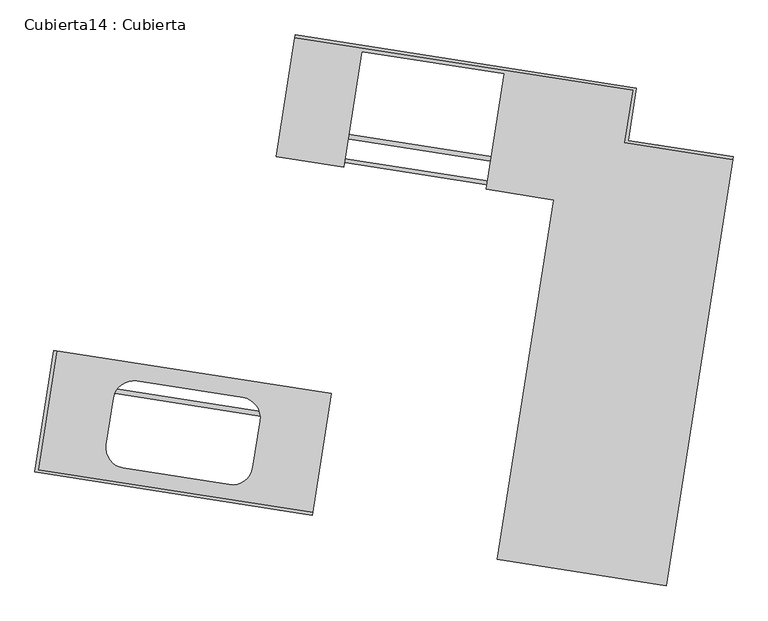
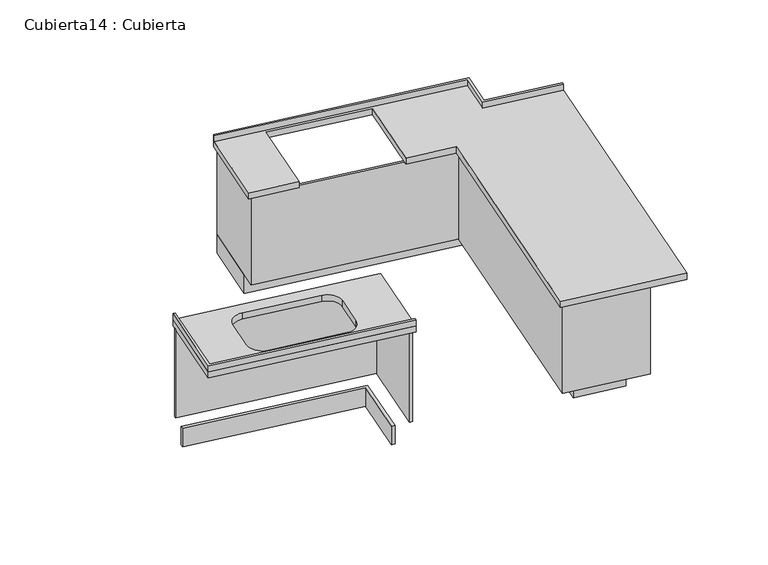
"""IFC4 building model written with IfcOpenShell, lengths in millimetres: furniture geometry, Cubierta14 : Cubierta."""

from ifc_helpers import new_model, si_unit, frame, origin, place, context, project, spatial, polyline, circle_curve, outline, extrude, faceted_brep, source, transform, mapped, element, save
from ifc_brep_helpers import plane_surface, revolved_surface, advanced_brep


def cubierta14_cubierta_d1cb6557(model_context):
    return source(origin(), model_context, "Body", "SolidModel", [
        extrude(outline(polyline([(-32367.9768771, -60096.1396805), (-32353.1558375, -60098.4498287), (-32450.9521109, -60725.8738393), (-31003.4305749, -60951.4983124), (-31005.7407231, -60966.3193521), (-32468.0832987, -60738.3847307), (-32367.9768771, -60096.1396805)])), frame((0.0, 0.0, 7320.0), z_axis=(0.0, 0.0, 1.0), x_axis=(1.0, 0.0, 0.0)), (0.0, 0.0, 1.0), 50.0),
        extrude(outline(polyline([(-32391.078359, -60244.3500768), (-31076.9461658, -60449.1832184), (-31153.9511054, -60943.2178723), (-31178.6528381, -60939.3676253), (-31105.4981455, -60470.0347041), (-32394.928606, -60269.0518095), (-32391.078359, -60244.3500768)])), frame((0.0, 0.0, 6400.0), z_axis=(0.0, 0.0, 1.0), x_axis=(1.0, 0.0, 0.0)), (0.0, 0.0, 1.0), 150.0),
        extrude(outline(polyline([(-32371.8271241, -60120.8414133), (-30934.1862674, -60344.9257898), (-31030.4424419, -60962.4691072), (-31050.2038281, -60959.3889096), (-30957.0278511, -60361.6069784), (-32374.9073217, -60140.6027995), (-32371.8271241, -60120.8414133)])), frame((0.0, 0.0, 6550.0), z_axis=(0.0, 0.0, 1.0), x_axis=(1.0, 0.0, 0.0)), (0.0, 0.0, 1.0), 720.0),
        extrude(outline(polyline([(-29488.1543355, -61132.0195588), (-29858.680322, -61074.2658546), (-29562.9813552, -59177.1727934), (-31148.8325985, -58929.9869365), (-31071.8276589, -58435.9522826), (-31052.0662727, -58439.0324802), (-31125.2209654, -58908.3654014), (-29534.4293756, -59156.3213077), (-29830.1283424, -61053.4143689), (-29509.0058212, -61103.4675791), (-29183.2749274, -59013.7009975), (-29158.5731947, -59017.5512445), (-29488.1543355, -61132.0195588)])), frame((0.0, 0.0, 6400.0), z_axis=(0.0, 0.0, 1.0), x_axis=(1.0, 0.0, 0.0)), (0.0, 0.0, 1.0), 150.0),
        extrude(outline(polyline([(-30001.4402205, -61178.5232832), (-29705.7412536, -59281.430222), (-31168.0838334, -59053.4956), (-31071.8276589, -58435.9522826), (-31052.0662727, -58439.0324802), (-31145.2422497, -59036.8144114), (-29682.8996699, -59264.7490334), (-29978.5986367, -61161.8420946), (-29400.5780955, -61251.9378734), (-29054.8259174, -59033.7222818), (-29035.0645312, -59036.8024794), (-29383.8969069, -61274.7794572), (-30001.4402205, -61178.5232832)])), frame((0.0, 0.0, 6550.0), z_axis=(0.0, 0.0, 1.0), x_axis=(1.0, 0.0, 0.0)), (0.0, 0.0, 1.0), 720.0),
        faceted_brep([(-31196.6358131, -59074.3470857, 7320.0), (-30840.9308602, -59129.7906426, 7320.0), (-30745.9475854, -58520.4137698, 7320.0), (-29995.0149114, -58637.4612781, 7320.0), (-30089.9981863, -59246.8381508, 7320.0), (-29734.2932333, -59302.2817077, 7320.0), (-30029.9921986, -61199.3747588, 7320.0), (-29140.7298255, -61337.9836496, 7320.0), (-28790.3573524, -59090.1259888, 7320.0), (-29358.497216, -59001.5703064, 7320.0), (-29315.3744506, -58724.9109056, 7320.0), (-31098.8395398, -58446.9230752, 7320.0), (-29298.2432627, -58712.4000141, 7270.0), (-29341.3660281, -58989.059415, 7270.0), (-28788.0472042, -59075.3049492, 7270.0), (-29140.7298255, -61337.9836496, 7270.0), (-30029.9921986, -61199.3747588, 7270.0), (-29734.2932333, -59302.2817077, 7270.0), (-30089.9981863, -59246.8381508, 7270.0), (-29995.0149114, -58637.4612781, 7270.0), (-30745.9475854, -58520.4137698, 7270.0), (-30840.9308602, -59129.7906426, 7270.0), (-31196.6358131, -59074.3470857, 7270.0), (-31096.5293916, -58432.1020356, 7270.0), (-28788.0472042, -59075.3049492, 7370.0), (-28790.3573524, -59090.1259888, 7370.0), (-29315.3744506, -58724.9109056, 7370.0), (-31098.8395398, -58446.9230752, 7370.0), (-31096.5293916, -58432.1020356, 7370.0), (-29298.2432628, -58712.4000141, 7370.0), (-29341.3660281, -58989.059415, 7370.0), (-29358.497216, -59001.5703064, 7370.0)], [[[0, 1, 2, 3, 4, 5, 6, 7, 8, 9, 10, 11]], [[12, 13, 14, 15, 16, 17, 18, 19, 20, 21, 22, 23]], [[24, 25, 8, 7, 15, 14]], [[10, 26, 27, 11]], [[12, 23, 28, 29]], [[11, 27, 28, 23, 22, 0]], [[5, 4, 18, 17]], [[6, 5, 17, 16]], [[7, 6, 16, 15]], [[1, 0, 22, 21]], [[2, 1, 21, 20]], [[3, 2, 20, 19]], [[4, 3, 19, 18]], [[25, 24, 30, 29, 28, 27, 26, 31]], [[8, 25, 31, 9]], [[24, 14, 13, 30]], [[26, 10, 9, 31]], [[12, 29, 30, 13]]]),
        advanced_brep(
        [(-30905.6342877, -60324.0743041, 7320.0), (-32367.9768771, -60096.1396805, 7320.0), (-32468.0832948, -60738.3847061, 7320.0), (-31005.7407055, -60966.3193297, 7320.0), (-32090.9630233, -60594.7513314, 7320.0), (-32052.4605534, -60347.7340044, 7320.0), (-31930.2580804, -60258.4896456, 7320.0), (-31371.9989215, -60345.5052274, 7320.0), (-31282.7545626, -60467.7077004, 7320.0), (-31321.2570325, -60714.7250274, 7320.0), (-31443.4595055, -60803.9693862, 7320.0), (-32001.7186644, -60716.9538044, 7320.0), (-30905.6342877, -60324.0743041, 7270.0), (-31005.7407055, -60966.3193297, 7270.0), (-32468.0832948, -60738.3847061, 7270.0), (-32367.9768771, -60096.1396805, 7270.0), (-32090.9630233, -60594.7513314, 7270.0), (-32001.7186644, -60716.9538044, 7270.0), (-31443.4595055, -60803.9693862, 7270.0), (-31321.2570325, -60714.7250274, 7270.0), (-31282.7545626, -60467.7077004, 7270.0), (-31371.9989215, -60345.5052274, 7270.0), (-31930.2580804, -60258.4896456, 7270.0), (-32052.4605534, -60347.7340044, 7270.0)],
        [
            (0, 1),
            (1, 2),
            (2, 3),
            (3, 0),
            (4, 5),
            (5, 6, circle_curve(frame((-31946.7371375, -60364.2130615, 7320.0), z_axis=(0.0, 0.0, -1.0), x_axis=(0.9880693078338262, -0.15400987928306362, 0.0)), 107.0)),
            (6, 7),
            (7, 8, circle_curve(frame((-31388.4779786, -60451.2286433, 7320.0), z_axis=(0.0, 0.0, -1.0), x_axis=(0.9880693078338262, -0.15400987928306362, 0.0)), 107.0)),
            (8, 9),
            (9, 10, circle_curve(frame((-31426.9804484, -60698.2459703, 7320.0), z_axis=(0.0, 0.0, -1.0), x_axis=(0.9880693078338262, -0.15400987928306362, 0.0)), 107.0)),
            (10, 11),
            (11, 4, circle_curve(frame((-31985.2396073, -60611.2303885, 7320.0), z_axis=(0.0, 0.0, -1.0), x_axis=(0.9880693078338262, -0.15400987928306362, 0.0)), 107.0)),
            (12, 13),
            (13, 14),
            (14, 15),
            (15, 12),
            (16, 17, circle_curve(frame((-31985.2396073, -60611.2303885, 7270.0), z_axis=(0.0, 0.0, 1.0), x_axis=(0.9880693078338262, -0.15400987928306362, 0.0)), 107.0)),
            (17, 18),
            (18, 19, circle_curve(frame((-31426.9804484, -60698.2459703, 7270.0), z_axis=(0.0, 0.0, 1.0), x_axis=(0.9880693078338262, -0.15400987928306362, 0.0)), 107.0)),
            (19, 20),
            (20, 21, circle_curve(frame((-31388.4779786, -60451.2286433, 7270.0), z_axis=(0.0, 0.0, 1.0), x_axis=(0.9880693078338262, -0.15400987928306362, 0.0)), 107.0)),
            (21, 22),
            (22, 23, circle_curve(frame((-31946.7371375, -60364.2130615, 7270.0), z_axis=(0.0, 0.0, 1.0), x_axis=(0.9880693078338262, -0.15400987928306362, 0.0)), 107.0)),
            (23, 16),
            (4, 16),
            (23, 5),
            (22, 6),
            (21, 7),
            (20, 8),
            (19, 9),
            (18, 10),
            (17, 11),
            (0, 12),
            (15, 1),
            (14, 2),
            (13, 3),
        ],
        [
            plane_surface(frame((-31002.8178957, -58446.7088005, 7320.0), z_axis=(0.0, 0.0, 1.0), x_axis=(-0.9880693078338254, 0.15400987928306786, 0.0))),
            plane_surface(frame((-31002.8178957, -58446.7088005, 7270.0), z_axis=(0.0, 0.0, -1.0), x_axis=(0.9880693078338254, -0.15400987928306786, 0.0))),
            plane_surface(frame((-32090.9630233, -60594.7513314, 7320.0), z_axis=(0.9880693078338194, -0.1540098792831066, 0.0), x_axis=(0.0, 0.0, -1.0))),
            revolved_surface(polyline([(-31841.01372156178, -60380.69211858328, 7270.0), (-31841.01372156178, -60380.69211858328, 7320.0)]), (-31946.7371375, -60364.2130615, 6420.0), (0.0, 0.0, -1.0000000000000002)),
            plane_surface(frame((-31930.2580804, -60258.4896456, 7320.0), z_axis=(-0.15400987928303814, -0.9880693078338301, 0.0), x_axis=(0.0, 0.0, -1.0))),
            revolved_surface(polyline([(-31282.75456266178, -60467.70770038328, 7270.0), (-31282.75456266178, -60467.70770038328, 7320.0)]), (-31388.4779786, -60451.2286433, 6420.0), (0.0, 0.0, -1.0000000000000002)),
            plane_surface(frame((-31282.7545626, -60467.7077004, 7320.0), z_axis=(-0.9880693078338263, 0.15400987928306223, 0.0), x_axis=(0.0, 0.0, -1.0))),
            revolved_surface(polyline([(-31321.25703246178, -60714.72502738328, 7270.0), (-31321.25703246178, -60714.72502738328, 7320.0)]), (-31426.9804484, -60698.2459703, 6420.0), (0.0, 0.0, -1.0000000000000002)),
            plane_surface(frame((-31443.4595055, -60803.9693862, 7320.0), z_axis=(0.1540098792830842, 0.9880693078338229, 0.0), x_axis=(0.0, 0.0, -1.0))),
            revolved_surface(polyline([(-31879.51619136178, -60627.709445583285, 7270.0), (-31879.51619136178, -60627.709445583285, 7320.0)]), (-31985.2396073, -60611.2303885, 6420.0), (0.0, 0.0, -1.0000000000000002)),
            plane_surface(frame((-30905.6342877, -60324.0743041, 7320.0), z_axis=(0.1540098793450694, 0.9880693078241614, 0.0), x_axis=(0.0, 0.0, -1.0))),
            plane_surface(frame((-32367.9768771, -60096.1396805, 7320.0), z_axis=(-0.988069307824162, 0.1540098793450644, 0.0), x_axis=(0.0, 0.0, -1.0))),
            plane_surface(frame((-32468.0832948, -60738.3847061, 7320.0), z_axis=(-0.15400987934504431, -0.9880693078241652, 0.0), x_axis=(0.0, 0.0, -1.0))),
            plane_surface(frame((-31005.7407055, -60966.3193297, 7320.0), z_axis=(0.9880693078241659, -0.15400987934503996, 0.0), x_axis=(0.0, 0.0, -1.0))),
        ],
        [
            (0, [[1, 2, 3, 4], [5, 6, 7, 8, 9, 10, 11, 12]]),
            (1, [[13, 14, 15, 16], [17, 18, 19, 20, 21, 22, 23, 24]]),
            (2, [[-5, 25, -24, 26]]),
            (3, [[-6, -26, -23, 27]]),
            (4, [[-7, -27, -22, 28]]),
            (5, [[-8, -28, -21, 29]]),
            (6, [[-9, -29, -20, 30]]),
            (7, [[-10, -30, -19, 31]]),
            (8, [[-11, -31, -18, 32]]),
            (9, [[-12, -32, -17, -25]]),
            (10, [[-1, 33, -16, 34]]),
            (11, [[-2, -34, -15, 35]]),
            (12, [[-3, -35, -14, 36]]),
            (13, [[-4, -36, -13, -33]]),
        ],
    ),
    ])


if __name__ == "__main__":
    model = new_model("IFC4")
    model_context = context("Model", 3, world=origin())
    ifc_project = project(units=[si_unit("LENGTHUNIT", "METRE", prefix="MILLI")], contexts=[model_context])
    site = spatial("IfcSite", under=ifc_project)
    building = spatial("IfcBuilding", under=site)
    placement = place(None, origin())
    cubierta14_cubierta_shape = cubierta14_cubierta_d1cb6557(model_context)
    element("IfcFurniture", 1, ObjectType="Cubierta14 : Cubierta", at=placement, inside=building, context=model_context, shape_type="MappedRepresentation", body=[
        mapped(cubierta14_cubierta_shape, transform((0.0, 0.0, 0.0), x_axis=(1.0, 0.0, 0.0), y_axis=(0.0, 1.0, 0.0), z_axis=(0.0, 0.0, 1.0))),
    ])
    save(model, "model.ifc")
